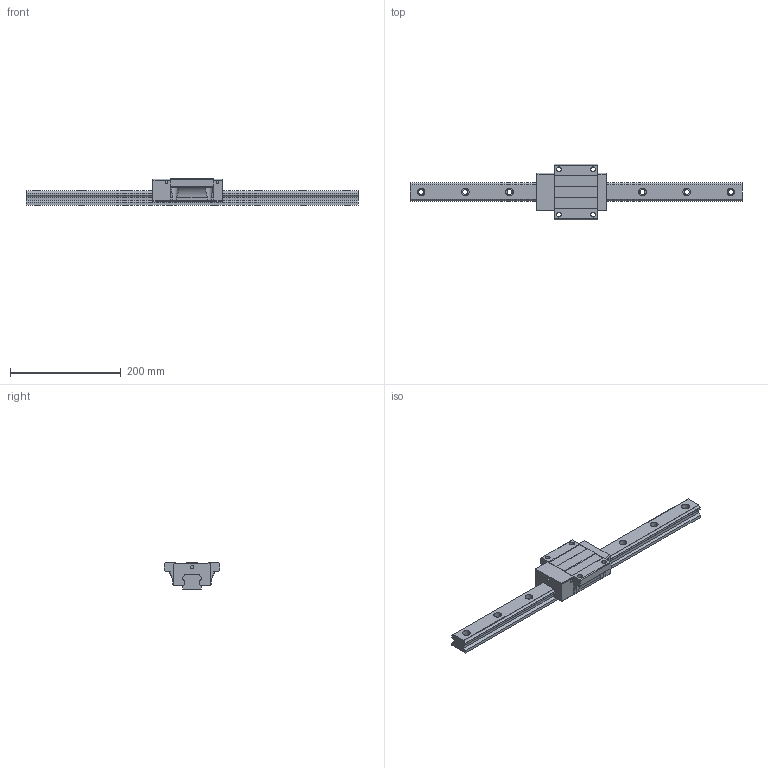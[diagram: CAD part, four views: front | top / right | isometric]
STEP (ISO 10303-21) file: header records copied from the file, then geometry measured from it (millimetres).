
FILE_DESCRIPTION (( 'STEP AP203' ), '1' );
FILE_NAME ('TRH35FN-BN.STEP', '2024-06-26T07:56:49', ( '' ), ( '' ), 'SwSTEP 2.0', 'SolidWorks 2022', '' );
FILE_SCHEMA (( 'CONFIG_CONTROL_DESIGN' ));
Length unit declared in the file: millimetre
Products named in the file (1): TRH35FN-BN
Bounding box: 600 x 100 x 48 mm (x, y, z)
Volume: 751317 mm3; surface area: 127169.2 mm2
Topology: 2 solids, 2 shells, 212 faces, 580 edges, 386 vertices
Faces by surface type: cylinder 112, plane 100
Entity records: 7449 total; most frequent: CARTESIAN_POINT 1801, DIRECTION 1174, ORIENTED_EDGE 1160, EDGE_CURVE 580, AXIS2_PLACEMENT_3D 409, VERTEX_POINT 386, VECTOR 356, LINE 356
